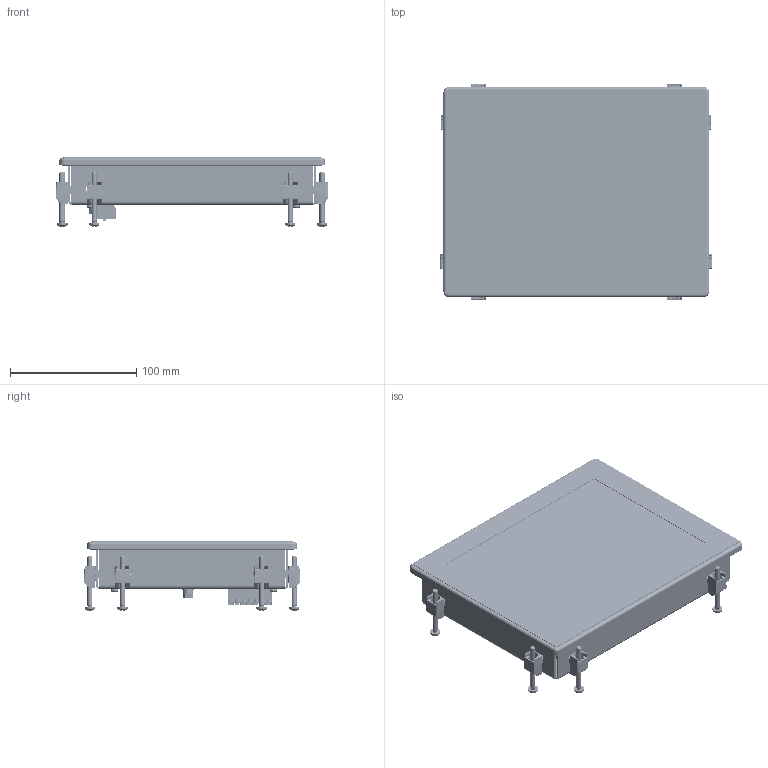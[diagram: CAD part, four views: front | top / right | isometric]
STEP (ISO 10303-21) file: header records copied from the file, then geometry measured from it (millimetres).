
FILE_DESCRIPTION(/* description */ (''),/* implementation_level */ '2;1');
FILE_NAME(/* name */ 'WP800_20260617_res.stp',/* time_stamp */ '2026-06-17T14:23:15+02:00',/* author */ ('ut3'),/* organization */ (''),/* preprocessor_version */ 'ST-DEVELOPER v20.1',/* originating_system */ 'Autodesk Inventor 2026',/* authorisation */ '');
FILE_SCHEMA (('AUTOMOTIVE_DESIGN { 1 0 10303 214 3 1 1 }'));
Products named in the file (182): PC800_V3; 1300.20.532_V3; 0910.00.078; LCM; TP; 1300.20.536_V2; 1300.20.536_V2_1; DP06_1030_M3; 1300.20.533_V2; 1300.20.533_V2_1; M4_FTTC_C; 1900.00.313_V1; 1300_20_304_REV2; ISO 7045 - M4 x 40 - 4.8 - Z; 1300.20.532_V3_Guarnizione; 1300.20.537_V2; 1300.20.537_V2_1; DC14_1030_M3; 1300.20.579_V3; 1300.20.579_V3_1; DP14_1030_M3; ISO 4762 - M2,5 x 6; 1600.00.038; 1600_00_059; 1600_00_167; 1600_00_166; 1600_00_165; 0400.60.078_1910403_04_FKC-2-5-7-ST_3D; fkc_2.5-7-st; 615008138321 (rev1); 615008138321_Housing; 615008138321_Housing1; 615008138321_LED_Jaune; 615008138321_LED_jaune_1; 615008138321_LED_vert; 615008138321_LED2; 615008138321_LED1; 615008138321_LED_vert_1; 615008138321_Pin1; 615008138321_Pin3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
Assembly tree (260 placements, depth 4):
  PC800_V3
    1300.20.532_V3
    0910.00.078
      LCM
      TP
    1300.20.536_V2
      1300.20.536_V2_1
      DP06_1030_M3
      DC14_1030_M3
    1300.20.533_V2
      1300.20.533_V2_1
      M4_FTTC_C
    1600_00_059  x6
    1900.00.313_V1
    1300_20_304_REV2  x8
    ISO 7045 - M4 x 40 - 4.8 - Z  x8
    1300.20.532_V3_Guarnizione
    1300.20.537_V2
      1300.20.537_V2_1
      DC14_1030_M3  x2
    1300.20.579_V3
      1300.20.579_V3_1
      DP14_1030_M3
    ISO 4762 - M2,5 x 6  x8
    1600.00.038  x4
    1600_00_167
    1600_00_166
    1600_00_165
    0400.60.078_1910403_04_FKC-2-5-7-ST_3D
      fkc_2.5-7-st
    615008138321 (rev1)  x2
      615008138321_Housing
      615008138321_Housing1
      615008138321_LED_Jaune
        615008138321_LED2
        615008138321_LED1
        615008138321_LED_jaune_1
      615008138321_LED_vert
        615008138321_LED2
        615008138321_LED1
        615008138321_LED_vert_1
      615008138321_Pin1
      615008138321_Pin3
      615008138321_Pin5
      615008138321_Pin7
      615008138321_Pin2
      615008138321_Pin4
      615008138321_Pin6
      615008138321_Pin8
      615008138321_Shielding
    0410.00.002_614004135023 (rev1)  x2
      Insulator
      Pin
      Shielding
      Insulator2
    1900.10.315_V1
    476591102
    1600.00.236_V1  x2
    QMB210_V2_SSD
      QMB210_V2_3D
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Bounding box: 215.06 x 170.58 x 55.03 mm (x, y, z)
Volume: 510543.5 mm3; surface area: 452364.4 mm2
Topology: 955 solids, 1024 shells, 19600 faces, 47588 edges, 30771 vertices
Faces by surface type: plane 12276, cylinder 6079, bspline 546, sphere 302, cone 253, torus 144
Full cylindrical faces by diameter (mm): 0 x1, 0.156 x1, 0.163 x2, 0.2 x51, 0.254 x207, 0.3 x649, 0.345 x1, 0.406 x140, 0.457 x1, 0.5 x318, 0.508 x72, 0.6 x66, 0.65 x2, 0.66 x36, 0.7 x39, 0.75 x2, 0.762 x61, 0.8 x8, 0.85 x2, 0.875 x1, 0.889 x55, 0.9 x1, 1.016 x44, 1.1 x3, 1.118 x79, 1.2 x7, 1.321 x3, 1.397 x7, 1.4 x7, 1.416 x2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
Entity records: 469076 total; most frequent: CARTESIAN_POINT 92092, DIRECTION 75882, ORIENTED_EDGE 71834, EDGE_CURVE 35989, LINE 25842, VECTOR 25842, AXIS2_PLACEMENT_3D 25020, VERTEX_POINT 23557
